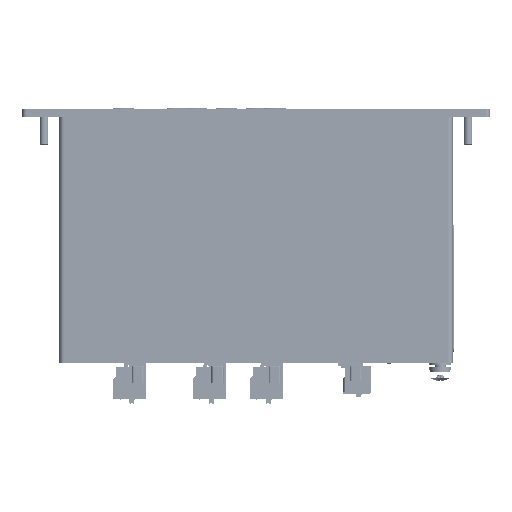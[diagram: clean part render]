
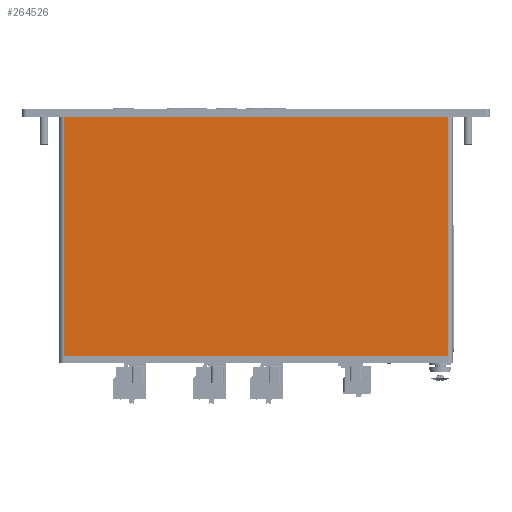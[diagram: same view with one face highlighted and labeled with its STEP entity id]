
A CAD part, left-side view. The second image highlights one B-rep face of the part: STEP entity #264526.
In plain terms, the highlighted planar face has unit normal (-1, 0, 0).
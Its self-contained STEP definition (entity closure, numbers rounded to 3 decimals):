
#5837=PLANE('',#281091);
#33761=FACE_OUTER_BOUND('',#47861,.T.);
#47861=EDGE_LOOP('',(#207544,#207545,#207546,#207547));
#76587=LINE('',#423089,#102895);
#76836=LINE('',#423646,#103144);
#76838=LINE('',#423650,#103146);
#76839=LINE('',#423651,#103147);
#102895=VECTOR('',#317515,10.);
#103144=VECTOR('',#318104,10.);
#103146=VECTOR('',#318108,10.);
#103147=VECTOR('',#318109,10.);
#128895=VERTEX_POINT('',#423070);
#128899=VERTEX_POINT('',#423085);
#129036=VERTEX_POINT('',#423643);
#129038=VERTEX_POINT('',#423649);
#157547=EDGE_CURVE('',#128899,#128895,#76587,.F.);
#157828=EDGE_CURVE('',#129036,#128899,#76836,.T.);
#157830=EDGE_CURVE('',#129038,#129036,#76838,.T.);
#157831=EDGE_CURVE('',#128895,#129038,#76839,.T.);
#207544=ORIENTED_EDGE('',*,*,#157828,.F.);
#207545=ORIENTED_EDGE('',*,*,#157830,.F.);
#207546=ORIENTED_EDGE('',*,*,#157831,.F.);
#207547=ORIENTED_EDGE('',*,*,#157547,.F.);
#264526=ADVANCED_FACE('',(#33761),#5837,.T.);
#281091=AXIS2_PLACEMENT_3D('',#423648,#318106,#318107);
#317515=DIRECTION('',(0.,-1.,0.));
#318104=DIRECTION('',(0.,0.,-1.));
#318106=DIRECTION('center_axis',(-1.,0.,0.));
#318107=DIRECTION('ref_axis',(0.,1.,0.));
#318108=DIRECTION('',(0.,-1.,0.));
#318109=DIRECTION('',(0.,0.,1.));
#423070=CARTESIAN_POINT('',(-70.324,109.683,-109.));
#423085=CARTESIAN_POINT('',(-70.324,-65.317,-109.));
#423089=CARTESIAN_POINT('',(-70.324,-7.692,-109.));
#423643=CARTESIAN_POINT('',(-70.324,-65.317,0.));
#423646=CARTESIAN_POINT('',(-70.324,-65.317,-60.65));
#423648=CARTESIAN_POINT('Origin',(-70.324,-65.217,-12.3));
#423649=CARTESIAN_POINT('',(-70.324,109.683,0.));
#423650=CARTESIAN_POINT('',(-70.324,-21.517,0.));
#423651=CARTESIAN_POINT('',(-70.324,109.683,-60.65));
